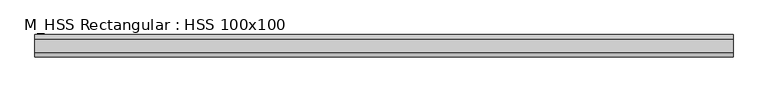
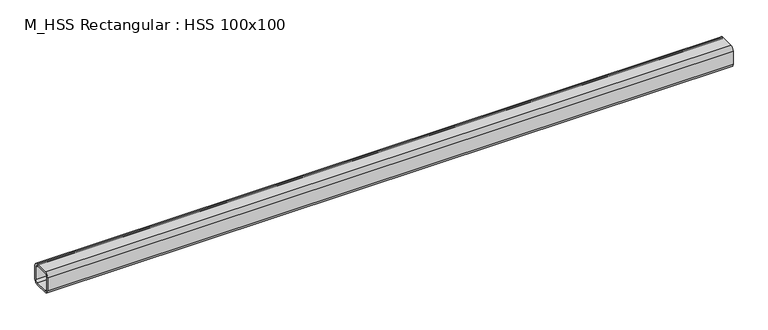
"""IFC4 building model written with IfcOpenShell, lengths in millimetres: beam geometry, M_HSS Rectangular : HSS 100x100."""

from ifc_helpers import new_model, si_unit, point, frame, frame_2d, origin, place, context, project, spatial, polyline, circle_curve, trimmed, segment, composite_curve, outline, extrude, source, transform, mapped, element, save


def m_hss_rectangular_hss_100x100_7ce8fc2e(model_context):
    return source(origin(), model_context, "Body", "SweptSolid", [
        extrude(outline(composite_curve([segment(polyline([(50.0, 30.94), (50.0, -30.94)]), True, "CONTINUOUS"), segment(trimmed(circle_curve(frame_2d((30.94, -30.94)), 19.06), [point((50.0, -30.94))], [point((30.94, -50.0))], False, "CARTESIAN"), True, "CONTINUOUS"), segment(polyline([(30.94, -50.0), (-30.94, -50.0)]), True, "CONTINUOUS"), segment(trimmed(circle_curve(frame_2d((-30.94, -30.94)), 19.06), [point((-30.94, -50.0))], [point((-50.0, -30.94))], False, "CARTESIAN"), True, "CONTINUOUS"), segment(polyline([(-50.0, -30.94), (-50.0, 30.94)]), True, "CONTINUOUS"), segment(trimmed(circle_curve(frame_2d((-30.94, 30.94)), 19.06), [point((-50.0, 30.94))], [point((-30.94, 50.0))], False, "CARTESIAN"), True, "CONTINUOUS"), segment(polyline([(-30.94, 50.0), (30.94, 50.0)]), True, "CONTINUOUS"), segment(trimmed(circle_curve(frame_2d((30.94, 30.94)), 19.06), [point((30.94, 50.0))], [point((50.0, 30.94))], False, "CARTESIAN"), True, "CONTINUOUS")], self_intersect=False), holes=[composite_curve([segment(trimmed(circle_curve(frame_2d((-30.94, 30.94)), 9.53), [point((-30.94, 40.47))], [point((-40.47, 30.94))], True, "CARTESIAN"), True, "CONTINUOUS"), segment(polyline([(-40.47, 30.94), (-40.47, -30.94)]), True, "CONTINUOUS"), segment(trimmed(circle_curve(frame_2d((-30.94, -30.94)), 9.53), [point((-40.47, -30.94))], [point((-30.94, -40.47))], True, "CARTESIAN"), True, "CONTINUOUS"), segment(polyline([(-30.94, -40.47), (30.94, -40.47)]), True, "CONTINUOUS"), segment(trimmed(circle_curve(frame_2d((30.94, -30.94)), 9.53), [point((30.94, -40.47))], [point((40.47, -30.94))], True, "CARTESIAN"), True, "CONTINUOUS"), segment(polyline([(40.47, -30.94), (40.47, 30.94)]), True, "CONTINUOUS"), segment(trimmed(circle_curve(frame_2d((30.94, 30.94)), 9.53), [point((40.47, 30.94))], [point((30.94, 40.47))], True, "CARTESIAN"), True, "CONTINUOUS"), segment(polyline([(30.94, 40.47), (-30.94, 40.47)]), True, "CONTINUOUS")], self_intersect=False)]), frame((-1566.25, 0.0, 0.0), z_axis=(1.0, 0.0, 0.0), x_axis=(0.0, 1.0, 0.0)), (0.0, 0.0, 1.0), 3132.5),
    ])


if __name__ == "__main__":
    model = new_model("IFC4")
    model_context = context("Model", 3, world=origin())
    ifc_project = project(units=[si_unit("LENGTHUNIT", "METRE", prefix="MILLI")], contexts=[model_context])
    site = spatial("IfcSite", under=ifc_project)
    building = spatial("IfcBuilding", under=site)
    placement = place(None, origin())
    m_hss_rectangular_hss_100x100_shape = m_hss_rectangular_hss_100x100_7ce8fc2e(model_context)
    element("IfcBeam", 1, ObjectType="M_HSS Rectangular : HSS 100x100", at=placement, inside=building, context=model_context, shape_type="MappedRepresentation", body=[
        mapped(m_hss_rectangular_hss_100x100_shape, transform((0.0, 0.0, 0.0), x_axis=(1.0, 0.0, 0.0), y_axis=(0.0, 1.0, 0.0), z_axis=(0.0, 0.0, 1.0))),
    ])
    save(model, "model.ifc")
